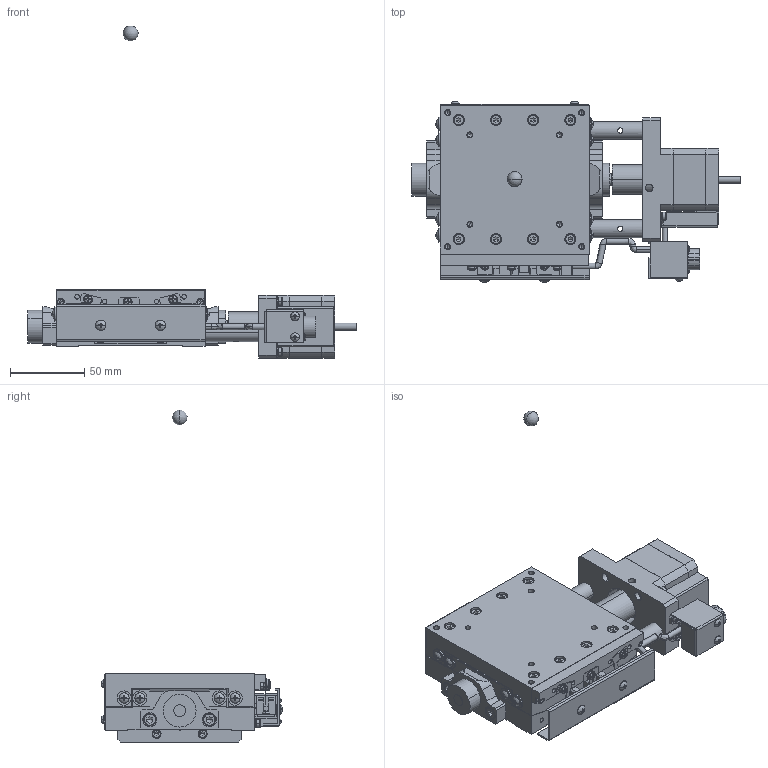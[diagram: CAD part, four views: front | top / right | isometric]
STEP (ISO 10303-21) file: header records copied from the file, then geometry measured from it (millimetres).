
FILE_DESCRIPTION( (''), '2;1');
FILE_NAME ('SA10A-R2B01-R.stp','2021-11-19T12:47:00',(''),(''),'spGate 17.5.5','','');
FILE_SCHEMA (('AUTOMOTIVE_DESIGN'));
Length unit declared in the file: millimetre
Products named in the file (4): Assembly; SA10A-R2B01-R-prt0; SA10A-R2B01-R-prt1; SA10A-R2B01-R-prt2
Assembly tree (3 placements, depth 2):
  Assembly
    SA10A-R2B01-R-prt0
    SA10A-R2B01-R-prt1
    SA10A-R2B01-R-prt2
Bounding box: 221.5 x 121.57 x 223 mm (x, y, z)
Volume: 534660.8 mm3; surface area: 126705.4 mm2
Topology: 3 solids, 5 shells, 2641 faces, 6676 edges, 4161 vertices
Faces by surface type: plane 1753, cylinder 527, bspline 314, sphere 47
Entity records: 134739 total; most frequent: CARTESIAN_POINT 19896, ORIENTED_EDGE 13148, DIRECTION 12285, COLOUR_RGB 9218, PRESENTATION_STYLE_ASSIGNMENT 9218, STYLED_ITEM 9218, EDGE_CURVE 6574, DRAUGHTING_PRE_DEFINED_CURVE_FONT 6574
